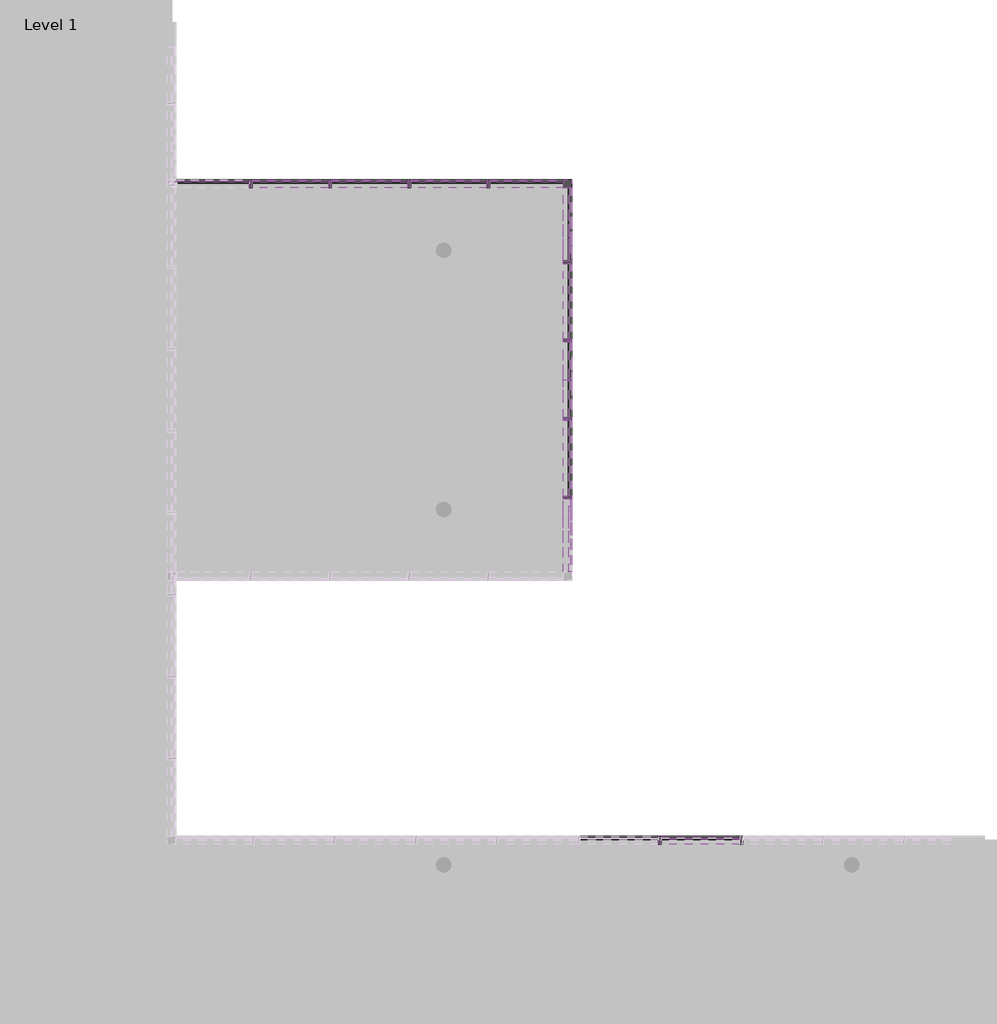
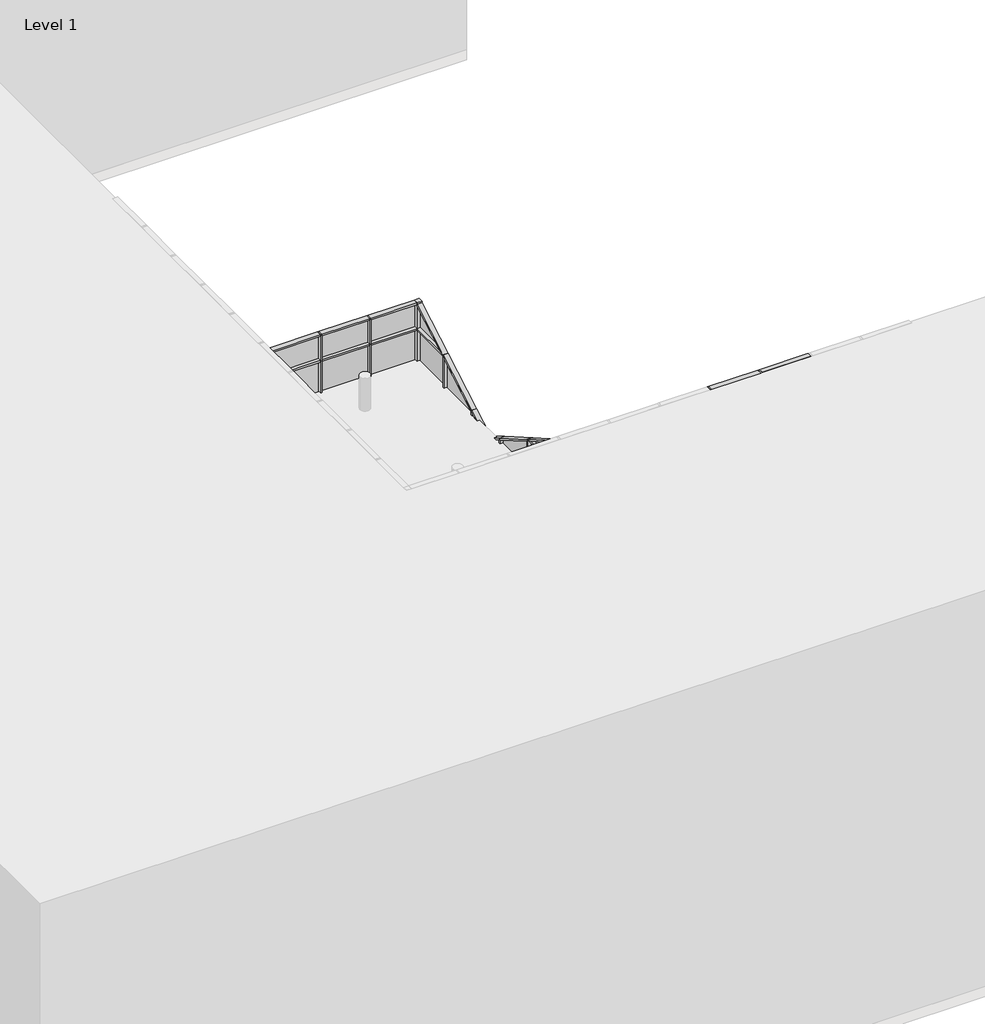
# One storey, part 4 of 18: 85 members, 32 plates.
"""IFC4 building model written with IfcOpenShell, lengths in millimetres."""

from ifc_helpers import new_model, si_unit, origin, place, context, project, spatial, transform, mapped, element, save
from components import quad_corner_mullion_quad_mullion_1_84add008, quad_corner_mullion_quad_mullion_1_81362c20, rectangular_mullion_50mm_x_150mm_5f185edf, rectangular_mullion_50mm_x_150mm_e13fe9f0, rectangular_mullion_50mm_x_150mm_4fd86324, rectangular_mullion_50mm_x_150mm_6edb5cd3, rectangular_mullion_50mm_x_150mm_015f125c, rectangular_mullion_50mm_x_150mm_d8cd8736, rectangular_mullion_50mm_x_150mm_3bb547da, rectangular_mullion_50mm_x_150mm_487a502d, rectangular_mullion_50mm_x_150mm_33c77db3, rectangular_mullion_50mm_x_150mm_4273df98, rectangular_mullion_50mm_x_150mm_62159ae8, rectangular_mullion_50mm_x_150mm_bbc1c4ea, rectangular_mullion_50mm_x_150mm_36202a7c, rectangular_mullion_50mm_x_150mm_84717ec5, rectangular_mullion_50mm_x_150mm_9fee62a8, rectangular_mullion_50mm_x_150mm_9a9261fc, rectangular_mullion_50mm_x_150mm_0d151f9d, rectangular_mullion_50mm_x_150mm_042a0947, rectangular_mullion_50mm_x_150mm_c95f637b, rectangular_mullion_50mm_x_150mm_0971b26f, rectangular_mullion_50mm_x_150mm_2daa7a2f, rectangular_mullion_50mm_x_150mm_79d6063e, rectangular_mullion_50mm_x_150mm_de2f9dda, rectangular_mullion_50mm_x_150mm_bd56b2c9, rectangular_mullion_50mm_x_150mm_0a493d35, rectangular_mullion_50mm_x_150mm_e9447dd4, rectangular_mullion_50mm_x_150mm_25900149, system_panel_glazed_77cafc2b, system_panel_glazed_ed797616, system_panel_glazed_95eec517, system_panel_glazed_cdc57668, system_panel_glazed_65478968, system_panel_glazed_4c130a31, system_panel_glazed_f33d80e9, system_panel_glazed_43ff80ab, system_panel_glazed_599459a6, system_panel_glazed_bda8db77, system_panel_glazed_93e8f09b, system_panel_glazed_ac2502f9, system_panel_glazed_372dedf1, system_panel_glazed_d933175f, system_panel_glazed_00c853e1, system_panel_glazed_c12f40d2, system_panel_glazed_af97afc8, system_panel_glazed_789d0833, system_panel_solid_368a6b70, system_panel_solid_ece33ae8

model = new_model("IFC4")

# Units and contexts
model_context = context("Model", 3, world=origin())
ifc_project = project(units=[si_unit("LENGTHUNIT", "METRE", prefix="MILLI")], contexts=[model_context])

# Site, building, storey
site = spatial("IfcSite", under=ifc_project)
building = spatial("IfcBuilding", under=site)
storey = spatial("IfcBuildingStorey", under=building, Name="Level 1", Elevation=0.0)

# Members
placement = place(None, origin())
quad_corner_mullion_quad_mullion_1_shape = quad_corner_mullion_quad_mullion_1_84add008(model_context)
element("IfcMember", 1, ObjectType="Quad Corner Mullion : Quad Mullion 1", at=placement, inside=storey, context=model_context, shape_type="MappedRepresentation", body=[
    mapped(quad_corner_mullion_quad_mullion_1_shape, transform((14709.0902051, -89.4607941, 0.0), x_axis=(0.0, 1.0, 0.0), y_axis=(1.0, 0.0, 0.0), z_axis=(0.0, 0.0, -1.0))),
])
element("IfcMember", 2, ObjectType="Quad Corner Mullion : Quad Mullion 1", at=placement, inside=storey, context=model_context, shape_type="MappedRepresentation", body=[
    mapped(quad_corner_mullion_quad_mullion_1_shape, transform((14709.0902051, -89.4607941, 3800.0), x_axis=(0.0, 1.0, 0.0), y_axis=(1.0, 0.0, 0.0), z_axis=(0.0, 0.0, -1.0))),
])
quad_corner_mullion_quad_mullion_1_2_shape = quad_corner_mullion_quad_mullion_1_81362c20(model_context)
element("IfcMember", 3, ObjectType="Quad Corner Mullion : Quad Mullion 1", at=placement, inside=storey, context=model_context, shape_type="MappedRepresentation", body=[
    mapped(quad_corner_mullion_quad_mullion_1_2_shape, transform((14709.0902051, -89.4607941, 7600.0), x_axis=(0.0, 1.0, 0.0), y_axis=(1.0, 0.0, 0.0), z_axis=(0.0, 0.0, -1.0))),
])
rectangular_mullion_50mm_x_150mm_shape = rectangular_mullion_50mm_x_150mm_5f185edf(model_context)
element("IfcMember", 4, ObjectType="Rectangular Mullion : 50mm x 150mm", at=placement, inside=storey, context=model_context, shape_type="MappedRepresentation", body=[
    mapped(rectangular_mullion_50mm_x_150mm_shape, transform((17919.8136138, -12132.3615692, 12400.0), x_axis=(0.0, 0.0, 1.0), y_axis=(0.0, 1.0, 0.0), z_axis=(-1.0, 0.0, 0.0))),
])
element("IfcMember", 5, ObjectType="Rectangular Mullion : 50mm x 150mm", at=placement, inside=storey, context=model_context, shape_type="MappedRepresentation", body=[
    mapped(rectangular_mullion_50mm_x_150mm_shape, transform((16427.3403936, -12132.3615692, 12400.0), x_axis=(0.0, 0.0, 1.0), y_axis=(0.0, 1.0, 0.0), z_axis=(-1.0, 0.0, 0.0))),
])
element("IfcMember", 6, ObjectType="Rectangular Mullion : 50mm x 150mm", at=placement, inside=storey, context=model_context, shape_type="MappedRepresentation", body=[
    mapped(rectangular_mullion_50mm_x_150mm_shape, transform((17869.8136138, -12132.3615692, 0.0), x_axis=(0.0, 0.0, -1.0), y_axis=(0.0, 1.0, 0.0), z_axis=(1.0, 0.0, 0.0))),
])
element("IfcMember", 7, ObjectType="Rectangular Mullion : 50mm x 150mm", at=placement, inside=storey, context=model_context, shape_type="MappedRepresentation", body=[
    mapped(rectangular_mullion_50mm_x_150mm_shape, transform((16377.3403936, -12132.3615692, 0.0), x_axis=(0.0, 0.0, -1.0), y_axis=(0.0, 1.0, 0.0), z_axis=(1.0, 0.0, 0.0))),
])
rectangular_mullion_50mm_x_150mm_2_shape = rectangular_mullion_50mm_x_150mm_e13fe9f0(model_context)
element("IfcMember", 8, ObjectType="Rectangular Mullion : 50mm x 150mm", at=placement, inside=storey, context=model_context, shape_type="MappedRepresentation", body=[
    mapped(rectangular_mullion_50mm_x_150mm_2_shape, transform((17919.8136138, -12132.3615692, 3800.0), x_axis=(0.0, 0.0, 1.0), y_axis=(0.0, 1.0, 0.0), z_axis=(-1.0, 0.0, 0.0))),
])
element("IfcMember", 9, ObjectType="Rectangular Mullion : 50mm x 150mm", at=placement, inside=storey, context=model_context, shape_type="MappedRepresentation", body=[
    mapped(rectangular_mullion_50mm_x_150mm_2_shape, transform((16427.3403936, -12132.3615692, 3800.0), x_axis=(0.0, 0.0, 1.0), y_axis=(0.0, 1.0, 0.0), z_axis=(-1.0, 0.0, 0.0))),
])
element("IfcMember", 10, ObjectType="Rectangular Mullion : 50mm x 150mm", at=placement, inside=storey, context=model_context, shape_type="MappedRepresentation", body=[
    mapped(rectangular_mullion_50mm_x_150mm_2_shape, transform((17919.8136138, -12132.3615692, 7600.0), x_axis=(0.0, 0.0, 1.0), y_axis=(0.0, 1.0, 0.0), z_axis=(-1.0, 0.0, 0.0))),
])
element("IfcMember", 11, ObjectType="Rectangular Mullion : 50mm x 150mm", at=placement, inside=storey, context=model_context, shape_type="MappedRepresentation", body=[
    mapped(rectangular_mullion_50mm_x_150mm_2_shape, transform((16427.3403936, -12132.3615692, 7600.0), x_axis=(0.0, 0.0, 1.0), y_axis=(0.0, 1.0, 0.0), z_axis=(-1.0, 0.0, 0.0))),
])
element("IfcMember", 12, ObjectType="Rectangular Mullion : 50mm x 150mm", at=placement, inside=storey, context=model_context, shape_type="MappedRepresentation", body=[
    mapped(rectangular_mullion_50mm_x_150mm_2_shape, transform((17919.8136138, -12132.3615692, 11400.0), x_axis=(0.0, 0.0, 1.0), y_axis=(0.0, 1.0, 0.0), z_axis=(-1.0, 0.0, 0.0))),
])
element("IfcMember", 13, ObjectType="Rectangular Mullion : 50mm x 150mm", at=placement, inside=storey, context=model_context, shape_type="MappedRepresentation", body=[
    mapped(rectangular_mullion_50mm_x_150mm_2_shape, transform((16427.3403936, -12132.3615692, 11400.0), x_axis=(0.0, 0.0, 1.0), y_axis=(0.0, 1.0, 0.0), z_axis=(-1.0, 0.0, 0.0))),
])
element("IfcMember", 14, ObjectType="Rectangular Mullion : 50mm x 150mm", at=placement, inside=storey, context=model_context, shape_type="MappedRepresentation", body=[
    mapped(rectangular_mullion_50mm_x_150mm_2_shape, transform((17919.8136138, -12132.3615692, 2440.0), x_axis=(0.0, 0.0, 1.0), y_axis=(0.0, 1.0, 0.0), z_axis=(-1.0, 0.0, 0.0))),
])
element("IfcMember", 15, ObjectType="Rectangular Mullion : 50mm x 150mm", at=placement, inside=storey, context=model_context, shape_type="MappedRepresentation", body=[
    mapped(rectangular_mullion_50mm_x_150mm_2_shape, transform((16427.3403936, -12132.3615692, 2440.0), x_axis=(0.0, 0.0, 1.0), y_axis=(0.0, 1.0, 0.0), z_axis=(-1.0, 0.0, 0.0))),
])
element("IfcMember", 16, ObjectType="Rectangular Mullion : 50mm x 150mm", at=placement, inside=storey, context=model_context, shape_type="MappedRepresentation", body=[
    mapped(rectangular_mullion_50mm_x_150mm_2_shape, transform((17919.8136138, -12132.3615692, 6240.0), x_axis=(0.0, 0.0, 1.0), y_axis=(0.0, 1.0, 0.0), z_axis=(-1.0, 0.0, 0.0))),
])
element("IfcMember", 17, ObjectType="Rectangular Mullion : 50mm x 150mm", at=placement, inside=storey, context=model_context, shape_type="MappedRepresentation", body=[
    mapped(rectangular_mullion_50mm_x_150mm_2_shape, transform((16427.3403936, -12132.3615692, 6240.0), x_axis=(0.0, 0.0, 1.0), y_axis=(0.0, 1.0, 0.0), z_axis=(-1.0, 0.0, 0.0))),
])
element("IfcMember", 18, ObjectType="Rectangular Mullion : 50mm x 150mm", at=placement, inside=storey, context=model_context, shape_type="MappedRepresentation", body=[
    mapped(rectangular_mullion_50mm_x_150mm_2_shape, transform((16427.3403936, -12132.3615692, 10040.0), x_axis=(0.0, 0.0, 1.0), y_axis=(0.0, 1.0, 0.0), z_axis=(-1.0, 0.0, 0.0))),
])
rectangular_mullion_50mm_x_150mm_3_shape = rectangular_mullion_50mm_x_150mm_4fd86324(model_context)
element("IfcMember", 19, ObjectType="Rectangular Mullion : 50mm x 150mm", at=placement, inside=storey, context=model_context, shape_type="MappedRepresentation", body=[
    mapped(rectangular_mullion_50mm_x_150mm_3_shape, transform((11829.4545519, -89.4607941, 8424.5150656), x_axis=(0.0, 0.0, 1.0), y_axis=(0.0, 1.0, 0.0), z_axis=(-1.0, 0.0, 0.0))),
])
element("IfcMember", 20, ObjectType="Rectangular Mullion : 50mm x 150mm", at=placement, inside=storey, context=model_context, shape_type="MappedRepresentation", body=[
    mapped(rectangular_mullion_50mm_x_150mm_3_shape, transform((10377.1367255, -89.4607941, 8424.5150656), x_axis=(0.0, 0.0, 1.0), y_axis=(0.0, 1.0, 0.0), z_axis=(-1.0, 0.0, 0.0))),
])
element("IfcMember", 21, ObjectType="Rectangular Mullion : 50mm x 150mm", at=placement, inside=storey, context=model_context, shape_type="MappedRepresentation", body=[
    mapped(rectangular_mullion_50mm_x_150mm_3_shape, transform((8924.8188991, -89.4607941, 8424.5150656), x_axis=(0.0, 0.0, 1.0), y_axis=(0.0, 1.0, 0.0), z_axis=(-1.0, 0.0, 0.0))),
])
element("IfcMember", 22, ObjectType="Rectangular Mullion : 50mm x 150mm", at=placement, inside=storey, context=model_context, shape_type="MappedRepresentation", body=[
    mapped(rectangular_mullion_50mm_x_150mm_3_shape, transform((13231.7723783, -89.4607941, 0.0), x_axis=(0.0, 0.0, -1.0), y_axis=(0.0, 1.0, 0.0), z_axis=(1.0, 0.0, 0.0))),
])
element("IfcMember", 23, ObjectType="Rectangular Mullion : 50mm x 150mm", at=placement, inside=storey, context=model_context, shape_type="MappedRepresentation", body=[
    mapped(rectangular_mullion_50mm_x_150mm_3_shape, transform((11779.4545519, -89.4607941, 0.0), x_axis=(0.0, 0.0, -1.0), y_axis=(0.0, 1.0, 0.0), z_axis=(1.0, 0.0, 0.0))),
])
element("IfcMember", 24, ObjectType="Rectangular Mullion : 50mm x 150mm", at=placement, inside=storey, context=model_context, shape_type="MappedRepresentation", body=[
    mapped(rectangular_mullion_50mm_x_150mm_3_shape, transform((10327.1367255, -89.4607941, 0.0), x_axis=(0.0, 0.0, -1.0), y_axis=(0.0, 1.0, 0.0), z_axis=(1.0, 0.0, 0.0))),
])
rectangular_mullion_50mm_x_150mm_4_shape = rectangular_mullion_50mm_x_150mm_6edb5cd3(model_context)
element("IfcMember", 25, ObjectType="Rectangular Mullion : 50mm x 150mm", at=placement, inside=storey, context=model_context, shape_type="MappedRepresentation", body=[
    mapped(rectangular_mullion_50mm_x_150mm_4_shape, transform((11829.4545519, -89.4607941, 3800.0), x_axis=(0.0, 0.0, 1.0), y_axis=(0.0, 1.0, 0.0), z_axis=(-1.0, 0.0, 0.0))),
])
element("IfcMember", 26, ObjectType="Rectangular Mullion : 50mm x 150mm", at=placement, inside=storey, context=model_context, shape_type="MappedRepresentation", body=[
    mapped(rectangular_mullion_50mm_x_150mm_4_shape, transform((10377.1367255, -89.4607941, 3800.0), x_axis=(0.0, 0.0, 1.0), y_axis=(0.0, 1.0, 0.0), z_axis=(-1.0, 0.0, 0.0))),
])
element("IfcMember", 27, ObjectType="Rectangular Mullion : 50mm x 150mm", at=placement, inside=storey, context=model_context, shape_type="MappedRepresentation", body=[
    mapped(rectangular_mullion_50mm_x_150mm_4_shape, transform((8924.8188991, -89.4607941, 3800.0), x_axis=(0.0, 0.0, 1.0), y_axis=(0.0, 1.0, 0.0), z_axis=(-1.0, 0.0, 0.0))),
])
element("IfcMember", 28, ObjectType="Rectangular Mullion : 50mm x 150mm", at=placement, inside=storey, context=model_context, shape_type="MappedRepresentation", body=[
    mapped(rectangular_mullion_50mm_x_150mm_4_shape, transform((11829.4545519, -89.4607941, 7600.0), x_axis=(0.0, 0.0, 1.0), y_axis=(0.0, 1.0, 0.0), z_axis=(-1.0, 0.0, 0.0))),
])
element("IfcMember", 29, ObjectType="Rectangular Mullion : 50mm x 150mm", at=placement, inside=storey, context=model_context, shape_type="MappedRepresentation", body=[
    mapped(rectangular_mullion_50mm_x_150mm_4_shape, transform((10377.1367255, -89.4607941, 7600.0), x_axis=(0.0, 0.0, 1.0), y_axis=(0.0, 1.0, 0.0), z_axis=(-1.0, 0.0, 0.0))),
])
element("IfcMember", 30, ObjectType="Rectangular Mullion : 50mm x 150mm", at=placement, inside=storey, context=model_context, shape_type="MappedRepresentation", body=[
    mapped(rectangular_mullion_50mm_x_150mm_4_shape, transform((8924.8188991, -89.4607941, 7600.0), x_axis=(0.0, 0.0, 1.0), y_axis=(0.0, 1.0, 0.0), z_axis=(-1.0, 0.0, 0.0))),
])
rectangular_mullion_50mm_x_150mm_5_shape = rectangular_mullion_50mm_x_150mm_015f125c(model_context)
element("IfcMember", 31, ObjectType="Rectangular Mullion : 50mm x 150mm", at=placement, inside=storey, context=model_context, shape_type="MappedRepresentation", body=[
    mapped(rectangular_mullion_50mm_x_150mm_5_shape, transform((14709.0902051, -5819.981104, 0.0), x_axis=(0.0, 0.0, -1.0), y_axis=(1.0, 0.0, 0.0), z_axis=(0.0, -1.0, 0.0))),
])
element("IfcMember", 32, ObjectType="Rectangular Mullion : 50mm x 150mm", at=placement, inside=storey, context=model_context, shape_type="MappedRepresentation", body=[
    mapped(rectangular_mullion_50mm_x_150mm_5_shape, transform((14709.0902051, -4381.1010266, 0.0), x_axis=(0.0, 0.0, -1.0), y_axis=(1.0, 0.0, 0.0), z_axis=(0.0, -1.0, 0.0))),
])
element("IfcMember", 33, ObjectType="Rectangular Mullion : 50mm x 150mm", at=placement, inside=storey, context=model_context, shape_type="MappedRepresentation", body=[
    mapped(rectangular_mullion_50mm_x_150mm_5_shape, transform((14709.0902051, -2942.2209492, 0.0), x_axis=(0.0, 0.0, -1.0), y_axis=(1.0, 0.0, 0.0), z_axis=(0.0, -1.0, 0.0))),
])
rectangular_mullion_50mm_x_150mm_6_shape = rectangular_mullion_50mm_x_150mm_d8cd8736(model_context)
element("IfcMember", 34, ObjectType="Rectangular Mullion : 50mm x 150mm", at=placement, inside=storey, context=model_context, shape_type="MappedRepresentation", body=[
    mapped(rectangular_mullion_50mm_x_150mm_6_shape, transform((14709.0902051, -4431.1010266, 3800.0), x_axis=(0.0, 0.0, 1.0), y_axis=(1.0, 0.0, 0.0), z_axis=(0.0, 1.0, 0.0))),
])
element("IfcMember", 35, ObjectType="Rectangular Mullion : 50mm x 150mm", at=placement, inside=storey, context=model_context, shape_type="MappedRepresentation", body=[
    mapped(rectangular_mullion_50mm_x_150mm_6_shape, transform((14709.0902051, -2992.2209492, 3800.0), x_axis=(0.0, 0.0, 1.0), y_axis=(1.0, 0.0, 0.0), z_axis=(0.0, 1.0, 0.0))),
])
element("IfcMember", 36, ObjectType="Rectangular Mullion : 50mm x 150mm", at=placement, inside=storey, context=model_context, shape_type="MappedRepresentation", body=[
    mapped(rectangular_mullion_50mm_x_150mm_6_shape, transform((14709.0902051, -1553.3408718, 3800.0), x_axis=(0.0, 0.0, 1.0), y_axis=(1.0, 0.0, 0.0), z_axis=(0.0, 1.0, 0.0))),
])
rectangular_mullion_50mm_x_150mm_7_shape = rectangular_mullion_50mm_x_150mm_3bb547da(model_context)
element("IfcMember", 37, ObjectType="Rectangular Mullion : 50mm x 150mm", at=placement, inside=storey, context=model_context, shape_type="MappedRepresentation", body=[
    mapped(rectangular_mullion_50mm_x_150mm_7_shape, transform((13281.7723783, -89.4607941, 8424.5150656), x_axis=(0.0, 0.0, 1.0), y_axis=(0.0, 1.0, 0.0), z_axis=(-1.0, 0.0, 0.0))),
])
element("IfcMember", 38, ObjectType="Rectangular Mullion : 50mm x 150mm", at=placement, inside=storey, context=model_context, shape_type="MappedRepresentation", body=[
    mapped(rectangular_mullion_50mm_x_150mm_7_shape, transform((14634.0902051, -89.4607941, 0.0), x_axis=(0.0, 0.0, -1.0), y_axis=(0.0, 1.0, 0.0), z_axis=(1.0, 0.0, 0.0))),
])
element("IfcMember", 39, ObjectType="Rectangular Mullion : 50mm x 150mm", at=placement, inside=storey, context=model_context, shape_type="MappedRepresentation", body=[
    mapped(rectangular_mullion_50mm_x_150mm_7_shape, transform((8874.8188991, -89.4607941, 0.0), x_axis=(0.0, 0.0, -1.0), y_axis=(0.0, 1.0, 0.0), z_axis=(1.0, 0.0, 0.0))),
])
rectangular_mullion_50mm_x_150mm_8_shape = rectangular_mullion_50mm_x_150mm_487a502d(model_context)
element("IfcMember", 40, ObjectType="Rectangular Mullion : 50mm x 150mm", at=placement, inside=storey, context=model_context, shape_type="MappedRepresentation", body=[
    mapped(rectangular_mullion_50mm_x_150mm_8_shape, transform((13281.7723783, -89.4607941, 3800.0), x_axis=(0.0, 0.0, 1.0), y_axis=(0.0, 1.0, 0.0), z_axis=(-1.0, 0.0, 0.0))),
])
element("IfcMember", 41, ObjectType="Rectangular Mullion : 50mm x 150mm", at=placement, inside=storey, context=model_context, shape_type="MappedRepresentation", body=[
    mapped(rectangular_mullion_50mm_x_150mm_8_shape, transform((13281.7723783, -89.4607941, 7600.0), x_axis=(0.0, 0.0, 1.0), y_axis=(0.0, 1.0, 0.0), z_axis=(-1.0, 0.0, 0.0))),
])
rectangular_mullion_50mm_x_150mm_9_shape = rectangular_mullion_50mm_x_150mm_33c77db3(model_context)
element("IfcMember", 42, ObjectType="Rectangular Mullion : 50mm x 150mm", at=placement, inside=storey, context=model_context, shape_type="MappedRepresentation", body=[
    mapped(rectangular_mullion_50mm_x_150mm_9_shape, transform((14709.0902051, -1503.3408718, 0.0), x_axis=(0.0, 0.0, -1.0), y_axis=(1.0, 0.0, 0.0), z_axis=(0.0, -1.0, 0.0))),
])
rectangular_mullion_50mm_x_150mm_10_shape = rectangular_mullion_50mm_x_150mm_4273df98(model_context)
element("IfcMember", 43, ObjectType="Rectangular Mullion : 50mm x 150mm", at=placement, inside=storey, context=model_context, shape_type="MappedRepresentation", body=[
    mapped(rectangular_mullion_50mm_x_150mm_10_shape, transform((14709.0902051, -5869.981104, 3800.0), x_axis=(0.0, 0.0, 1.0), y_axis=(1.0, 0.0, 0.0), z_axis=(0.0, 1.0, 0.0))),
])
element("IfcMember", 44, ObjectType="Rectangular Mullion : 50mm x 150mm", at=placement, inside=storey, context=model_context, shape_type="MappedRepresentation", body=[
    mapped(rectangular_mullion_50mm_x_150mm_10_shape, transform((14709.0902051, -164.4607941, 3800.0), x_axis=(0.0, 0.0, 1.0), y_axis=(1.0, 0.0, 0.0), z_axis=(0.0, 1.0, 0.0))),
])
rectangular_mullion_50mm_x_150mm_11_shape = rectangular_mullion_50mm_x_150mm_62159ae8(model_context)
element("IfcMember", 45, ObjectType="Rectangular Mullion : 50mm x 150mm", at=placement, inside=storey, context=model_context, shape_type="MappedRepresentation", body=[
    mapped(rectangular_mullion_50mm_x_150mm_11_shape, transform((13256.7723783, -89.4607941, 0.0), x_axis=(-1.0, 0.0, 0.0), y_axis=(0.0, 1.0, 0.0), z_axis=(0.0, 0.0, -1.0))),
])
element("IfcMember", 46, ObjectType="Rectangular Mullion : 50mm x 150mm", at=placement, inside=storey, context=model_context, shape_type="MappedRepresentation", body=[
    mapped(rectangular_mullion_50mm_x_150mm_11_shape, transform((11804.4545519, -89.4607941, 0.0), x_axis=(-1.0, 0.0, 0.0), y_axis=(0.0, 1.0, 0.0), z_axis=(0.0, 0.0, -1.0))),
])
element("IfcMember", 47, ObjectType="Rectangular Mullion : 50mm x 150mm", at=placement, inside=storey, context=model_context, shape_type="MappedRepresentation", body=[
    mapped(rectangular_mullion_50mm_x_150mm_11_shape, transform((10352.1367255, -89.4607941, 0.0), x_axis=(-1.0, 0.0, 0.0), y_axis=(0.0, 1.0, 0.0), z_axis=(0.0, 0.0, -1.0))),
])
element("IfcMember", 48, ObjectType="Rectangular Mullion : 50mm x 150mm", at=placement, inside=storey, context=model_context, shape_type="MappedRepresentation", body=[
    mapped(rectangular_mullion_50mm_x_150mm_11_shape, transform((8899.8188991, -89.4607941, 0.0), x_axis=(-1.0, 0.0, 0.0), y_axis=(0.0, 1.0, 0.0), z_axis=(0.0, 0.0, -1.0))),
])
element("IfcMember", 49, ObjectType="Rectangular Mullion : 50mm x 150mm", at=placement, inside=storey, context=model_context, shape_type="MappedRepresentation", body=[
    mapped(rectangular_mullion_50mm_x_150mm_11_shape, transform((14709.0902051, -5844.981104, 0.0), x_axis=(0.0, 1.0, 0.0), y_axis=(1.0, 0.0, 0.0), z_axis=(0.0, 0.0, -1.0))),
])
element("IfcMember", 50, ObjectType="Rectangular Mullion : 50mm x 150mm", at=placement, inside=storey, context=model_context, shape_type="MappedRepresentation", body=[
    mapped(rectangular_mullion_50mm_x_150mm_11_shape, transform((14709.0902051, -4406.1010266, 0.0), x_axis=(0.0, 1.0, 0.0), y_axis=(1.0, 0.0, 0.0), z_axis=(0.0, 0.0, -1.0))),
])
element("IfcMember", 51, ObjectType="Rectangular Mullion : 50mm x 150mm", at=placement, inside=storey, context=model_context, shape_type="MappedRepresentation", body=[
    mapped(rectangular_mullion_50mm_x_150mm_11_shape, transform((14709.0902051, -2967.2209492, 0.0), x_axis=(0.0, 1.0, 0.0), y_axis=(1.0, 0.0, 0.0), z_axis=(0.0, 0.0, -1.0))),
])
element("IfcMember", 52, ObjectType="Rectangular Mullion : 50mm x 150mm", at=placement, inside=storey, context=model_context, shape_type="MappedRepresentation", body=[
    mapped(rectangular_mullion_50mm_x_150mm_11_shape, transform((14709.0902051, -1528.3408718, 0.0), x_axis=(0.0, 1.0, 0.0), y_axis=(1.0, 0.0, 0.0), z_axis=(0.0, 0.0, -1.0))),
])
rectangular_mullion_50mm_x_150mm_12_shape = rectangular_mullion_50mm_x_150mm_bbc1c4ea(model_context)
element("IfcMember", 53, ObjectType="Rectangular Mullion : 50mm x 150mm", at=placement, inside=storey, context=model_context, shape_type="MappedRepresentation", body=[
    mapped(rectangular_mullion_50mm_x_150mm_12_shape, transform((17894.8136138, -12132.3615692, 11400.0), x_axis=(-1.0, 0.0, 0.0), y_axis=(0.0, 1.0, 0.0), z_axis=(0.0, 0.0, -1.0))),
])
element("IfcMember", 54, ObjectType="Rectangular Mullion : 50mm x 150mm", at=placement, inside=storey, context=model_context, shape_type="MappedRepresentation", body=[
    mapped(rectangular_mullion_50mm_x_150mm_12_shape, transform((16402.3403936, -12132.3615692, 11400.0), x_axis=(-1.0, 0.0, 0.0), y_axis=(0.0, 1.0, 0.0), z_axis=(0.0, 0.0, -1.0))),
])
rectangular_mullion_50mm_x_150mm_13_shape = rectangular_mullion_50mm_x_150mm_36202a7c(model_context)
element("IfcMember", 55, ObjectType="Rectangular Mullion : 50mm x 150mm", at=placement, inside=storey, context=model_context, shape_type="MappedRepresentation", body=[
    mapped(rectangular_mullion_50mm_x_150mm_13_shape, transform((17894.8136138, -12132.3615692, 0.0), x_axis=(-1.0, 0.0, 0.0), y_axis=(0.0, 1.0, 0.0), z_axis=(0.0, 0.0, -1.0))),
])
element("IfcMember", 56, ObjectType="Rectangular Mullion : 50mm x 150mm", at=placement, inside=storey, context=model_context, shape_type="MappedRepresentation", body=[
    mapped(rectangular_mullion_50mm_x_150mm_13_shape, transform((16402.3403936, -12132.3615692, 0.0), x_axis=(-1.0, 0.0, 0.0), y_axis=(0.0, 1.0, 0.0), z_axis=(0.0, 0.0, -1.0))),
])
rectangular_mullion_50mm_x_150mm_14_shape = rectangular_mullion_50mm_x_150mm_84717ec5(model_context)
element("IfcMember", 57, ObjectType="Rectangular Mullion : 50mm x 150mm", at=placement, inside=storey, context=model_context, shape_type="MappedRepresentation", body=[
    mapped(rectangular_mullion_50mm_x_150mm_14_shape, transform((17894.8136138, -12132.3615692, 2440.0), x_axis=(-1.0, 0.0, 0.0), y_axis=(0.0, 1.0, 0.0), z_axis=(0.0, 0.0, -1.0))),
])
element("IfcMember", 58, ObjectType="Rectangular Mullion : 50mm x 150mm", at=placement, inside=storey, context=model_context, shape_type="MappedRepresentation", body=[
    mapped(rectangular_mullion_50mm_x_150mm_14_shape, transform((16402.3403936, -12132.3615692, 2440.0), x_axis=(-1.0, 0.0, 0.0), y_axis=(0.0, 1.0, 0.0), z_axis=(0.0, 0.0, -1.0))),
])
element("IfcMember", 59, ObjectType="Rectangular Mullion : 50mm x 150mm", at=placement, inside=storey, context=model_context, shape_type="MappedRepresentation", body=[
    mapped(rectangular_mullion_50mm_x_150mm_14_shape, transform((17894.8136138, -12132.3615692, 6240.0), x_axis=(-1.0, 0.0, 0.0), y_axis=(0.0, 1.0, 0.0), z_axis=(0.0, 0.0, -1.0))),
])
element("IfcMember", 60, ObjectType="Rectangular Mullion : 50mm x 150mm", at=placement, inside=storey, context=model_context, shape_type="MappedRepresentation", body=[
    mapped(rectangular_mullion_50mm_x_150mm_14_shape, transform((16402.3403936, -12132.3615692, 6240.0), x_axis=(-1.0, 0.0, 0.0), y_axis=(0.0, 1.0, 0.0), z_axis=(0.0, 0.0, -1.0))),
])
element("IfcMember", 61, ObjectType="Rectangular Mullion : 50mm x 150mm", at=placement, inside=storey, context=model_context, shape_type="MappedRepresentation", body=[
    mapped(rectangular_mullion_50mm_x_150mm_14_shape, transform((16402.3403936, -12132.3615692, 10040.0), x_axis=(-1.0, 0.0, 0.0), y_axis=(0.0, 1.0, 0.0), z_axis=(0.0, 0.0, -1.0))),
])
element("IfcMember", 62, ObjectType="Rectangular Mullion : 50mm x 150mm", at=placement, inside=storey, context=model_context, shape_type="MappedRepresentation", body=[
    mapped(rectangular_mullion_50mm_x_150mm_13_shape, transform((17894.8136138, -12132.3615692, 3800.0), x_axis=(-1.0, 0.0, 0.0), y_axis=(0.0, 1.0, 0.0), z_axis=(0.0, 0.0, -1.0))),
])
element("IfcMember", 63, ObjectType="Rectangular Mullion : 50mm x 150mm", at=placement, inside=storey, context=model_context, shape_type="MappedRepresentation", body=[
    mapped(rectangular_mullion_50mm_x_150mm_13_shape, transform((16402.3403936, -12132.3615692, 3800.0), x_axis=(-1.0, 0.0, 0.0), y_axis=(0.0, 1.0, 0.0), z_axis=(0.0, 0.0, -1.0))),
])
element("IfcMember", 64, ObjectType="Rectangular Mullion : 50mm x 150mm", at=placement, inside=storey, context=model_context, shape_type="MappedRepresentation", body=[
    mapped(rectangular_mullion_50mm_x_150mm_13_shape, transform((17894.8136138, -12132.3615692, 7600.0), x_axis=(-1.0, 0.0, 0.0), y_axis=(0.0, 1.0, 0.0), z_axis=(0.0, 0.0, -1.0))),
])
element("IfcMember", 65, ObjectType="Rectangular Mullion : 50mm x 150mm", at=placement, inside=storey, context=model_context, shape_type="MappedRepresentation", body=[
    mapped(rectangular_mullion_50mm_x_150mm_13_shape, transform((16402.3403936, -12132.3615692, 7600.0), x_axis=(-1.0, 0.0, 0.0), y_axis=(0.0, 1.0, 0.0), z_axis=(0.0, 0.0, -1.0))),
])
rectangular_mullion_50mm_x_150mm_15_shape = rectangular_mullion_50mm_x_150mm_9fee62a8(model_context)
element("IfcMember", 66, ObjectType="Rectangular Mullion : 50mm x 150mm", at=placement, inside=storey, context=model_context, shape_type="MappedRepresentation", body=[
    mapped(rectangular_mullion_50mm_x_150mm_15_shape, transform((14709.0902051, -4406.1010266, 3800.0), x_axis=(0.0, 1.0, 0.0), y_axis=(1.0, 0.0, 0.0), z_axis=(0.0, 0.0, -1.0))),
])
rectangular_mullion_50mm_x_150mm_16_shape = rectangular_mullion_50mm_x_150mm_9a9261fc(model_context)
element("IfcMember", 67, ObjectType="Rectangular Mullion : 50mm x 150mm", at=placement, inside=storey, context=model_context, shape_type="MappedRepresentation", body=[
    mapped(rectangular_mullion_50mm_x_150mm_16_shape, transform((14709.0902051, -2967.2209492, 3800.0), x_axis=(0.0, 1.0, 0.0), y_axis=(1.0, 0.0, 0.0), z_axis=(0.0, 0.0, -1.0))),
])
rectangular_mullion_50mm_x_150mm_17_shape = rectangular_mullion_50mm_x_150mm_0d151f9d(model_context)
element("IfcMember", 68, ObjectType="Rectangular Mullion : 50mm x 150mm", at=placement, inside=storey, context=model_context, shape_type="MappedRepresentation", body=[
    mapped(rectangular_mullion_50mm_x_150mm_17_shape, transform((14709.0902051, -1528.3408718, 3800.0), x_axis=(0.0, 1.0, 0.0), y_axis=(1.0, 0.0, 0.0), z_axis=(0.0, 0.0, -1.0))),
])
rectangular_mullion_50mm_x_150mm_18_shape = rectangular_mullion_50mm_x_150mm_042a0947(model_context)
element("IfcMember", 69, ObjectType="Rectangular Mullion : 50mm x 150mm", at=placement, inside=storey, context=model_context, shape_type="MappedRepresentation", body=[
    mapped(rectangular_mullion_50mm_x_150mm_18_shape, transform((14709.0902051, -3686.6609879, 6347.6705654), x_axis=(0.0, 0.5000000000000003, 0.8660254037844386), y_axis=(1.0, 0.0, 0.0), z_axis=(0.0, 0.8660254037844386, -0.5000000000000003))),
])
rectangular_mullion_50mm_x_150mm_19_shape = rectangular_mullion_50mm_x_150mm_c95f637b(model_context)
element("IfcMember", 70, ObjectType="Rectangular Mullion : 50mm x 150mm", at=placement, inside=storey, context=model_context, shape_type="MappedRepresentation", body=[
    mapped(rectangular_mullion_50mm_x_150mm_19_shape, transform((14709.0902051, -2967.2209492, 6763.0394654), x_axis=(0.0, -0.5000000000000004, 0.8660254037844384), y_axis=(1.0, 0.0, 0.0), z_axis=(0.0, 0.8660254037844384, 0.5000000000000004))),
])
rectangular_mullion_50mm_x_150mm_20_shape = rectangular_mullion_50mm_x_150mm_0971b26f(model_context)
element("IfcMember", 71, ObjectType="Rectangular Mullion : 50mm x 150mm", at=placement, inside=storey, context=model_context, shape_type="MappedRepresentation", body=[
    mapped(rectangular_mullion_50mm_x_150mm_20_shape, transform((14709.0902051, -1528.3408718, 7593.7772654), x_axis=(0.0, -0.49999999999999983, 0.8660254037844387), y_axis=(1.0, 0.0, 0.0), z_axis=(0.0, 0.8660254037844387, 0.49999999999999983))),
])
element("IfcMember", 72, ObjectType="Rectangular Mullion : 50mm x 150mm", at=placement, inside=storey, context=model_context, shape_type="MappedRepresentation", body=[
    mapped(rectangular_mullion_50mm_x_150mm_11_shape, transform((13256.7723783, -89.4607941, 3800.0), x_axis=(-1.0, 0.0, 0.0), y_axis=(0.0, 1.0, 0.0), z_axis=(0.0, 0.0, -1.0))),
])
element("IfcMember", 73, ObjectType="Rectangular Mullion : 50mm x 150mm", at=placement, inside=storey, context=model_context, shape_type="MappedRepresentation", body=[
    mapped(rectangular_mullion_50mm_x_150mm_11_shape, transform((11804.4545519, -89.4607941, 3800.0), x_axis=(-1.0, 0.0, 0.0), y_axis=(0.0, 1.0, 0.0), z_axis=(0.0, 0.0, -1.0))),
])
element("IfcMember", 74, ObjectType="Rectangular Mullion : 50mm x 150mm", at=placement, inside=storey, context=model_context, shape_type="MappedRepresentation", body=[
    mapped(rectangular_mullion_50mm_x_150mm_11_shape, transform((10352.1367255, -89.4607941, 3800.0), x_axis=(-1.0, 0.0, 0.0), y_axis=(0.0, 1.0, 0.0), z_axis=(0.0, 0.0, -1.0))),
])
element("IfcMember", 75, ObjectType="Rectangular Mullion : 50mm x 150mm", at=placement, inside=storey, context=model_context, shape_type="MappedRepresentation", body=[
    mapped(rectangular_mullion_50mm_x_150mm_11_shape, transform((8899.8188991, -89.4607941, 3800.0), x_axis=(-1.0, 0.0, 0.0), y_axis=(0.0, 1.0, 0.0), z_axis=(0.0, 0.0, -1.0))),
])
rectangular_mullion_50mm_x_150mm_21_shape = rectangular_mullion_50mm_x_150mm_2daa7a2f(model_context)
element("IfcMember", 76, ObjectType="Rectangular Mullion : 50mm x 150mm", at=placement, inside=storey, context=model_context, shape_type="MappedRepresentation", body=[
    mapped(rectangular_mullion_50mm_x_150mm_21_shape, transform((13256.7723783, -89.4607941, 7600.0), x_axis=(-1.0, 0.0, 0.0), y_axis=(0.0, 1.0, 0.0), z_axis=(0.0, 0.0, -1.0))),
])
element("IfcMember", 77, ObjectType="Rectangular Mullion : 50mm x 150mm", at=placement, inside=storey, context=model_context, shape_type="MappedRepresentation", body=[
    mapped(rectangular_mullion_50mm_x_150mm_21_shape, transform((11804.4545519, -89.4607941, 7600.0), x_axis=(-1.0, 0.0, 0.0), y_axis=(0.0, 1.0, 0.0), z_axis=(0.0, 0.0, -1.0))),
])
element("IfcMember", 78, ObjectType="Rectangular Mullion : 50mm x 150mm", at=placement, inside=storey, context=model_context, shape_type="MappedRepresentation", body=[
    mapped(rectangular_mullion_50mm_x_150mm_21_shape, transform((10352.1367255, -89.4607941, 7600.0), x_axis=(-1.0, 0.0, 0.0), y_axis=(0.0, 1.0, 0.0), z_axis=(0.0, 0.0, -1.0))),
])
element("IfcMember", 79, ObjectType="Rectangular Mullion : 50mm x 150mm", at=placement, inside=storey, context=model_context, shape_type="MappedRepresentation", body=[
    mapped(rectangular_mullion_50mm_x_150mm_21_shape, transform((8899.8188991, -89.4607941, 7600.0), x_axis=(-1.0, 0.0, 0.0), y_axis=(0.0, 1.0, 0.0), z_axis=(0.0, 0.0, -1.0))),
])
rectangular_mullion_50mm_x_150mm_22_shape = rectangular_mullion_50mm_x_150mm_79d6063e(model_context)
element("IfcMember", 80, ObjectType="Rectangular Mullion : 50mm x 150mm", at=placement, inside=storey, context=model_context, shape_type="MappedRepresentation", body=[
    mapped(rectangular_mullion_50mm_x_150mm_22_shape, transform((14709.0902051, -5844.981104, 3800.0), x_axis=(0.0, 1.0, 0.0), y_axis=(1.0, 0.0, 0.0), z_axis=(0.0, 0.0, -1.0))),
])
rectangular_mullion_50mm_x_150mm_23_shape = rectangular_mullion_50mm_x_150mm_de2f9dda(model_context)
element("IfcMember", 81, ObjectType="Rectangular Mullion : 50mm x 150mm", at=placement, inside=storey, context=model_context, shape_type="MappedRepresentation", body=[
    mapped(rectangular_mullion_50mm_x_150mm_23_shape, transform((14709.0902051, -89.4607941, 8424.5150656), x_axis=(0.0, -0.4999999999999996, 0.8660254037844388), y_axis=(1.0, 0.0, 0.0), z_axis=(0.0, 0.8660254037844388, 0.4999999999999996))),
])
rectangular_mullion_50mm_x_150mm_24_shape = rectangular_mullion_50mm_x_150mm_bd56b2c9(model_context)
element("IfcMember", 82, ObjectType="Rectangular Mullion : 50mm x 150mm", at=placement, inside=storey, context=model_context, shape_type="MappedRepresentation", body=[
    mapped(rectangular_mullion_50mm_x_150mm_24_shape, transform((14709.0902051, -4406.1010266, 6763.0394654), x_axis=(0.0, 0.5000000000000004, 0.8660254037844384), y_axis=(1.0, 0.0, 0.0), z_axis=(0.0, 0.8660254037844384, -0.5000000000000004))),
])
rectangular_mullion_50mm_x_150mm_25_shape = rectangular_mullion_50mm_x_150mm_0a493d35(model_context)
element("IfcMember", 83, ObjectType="Rectangular Mullion : 50mm x 150mm", at=placement, inside=storey, context=model_context, shape_type="MappedRepresentation", body=[
    mapped(rectangular_mullion_50mm_x_150mm_25_shape, transform((14709.0902051, -164.4607941, 7600.0), x_axis=(0.0, 0.0, 1.0), y_axis=(1.0, 0.0, 0.0), z_axis=(0.0, 1.0, 0.0))),
])
rectangular_mullion_50mm_x_150mm_26_shape = rectangular_mullion_50mm_x_150mm_e9447dd4(model_context)
element("IfcMember", 84, ObjectType="Rectangular Mullion : 50mm x 150mm", at=placement, inside=storey, context=model_context, shape_type="MappedRepresentation", body=[
    mapped(rectangular_mullion_50mm_x_150mm_26_shape, transform((14709.0902051, -5855.7591964, 7600.0), x_axis=(0.0, 0.5000000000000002, 0.8660254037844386), y_axis=(1.0, 0.0, 0.0), z_axis=(0.0, 0.8660254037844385, -0.5000000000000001))),
])
rectangular_mullion_50mm_x_150mm_27_shape = rectangular_mullion_50mm_x_150mm_25900149(model_context)
element("IfcMember", 85, ObjectType="Rectangular Mullion : 50mm x 150mm", at=placement, inside=storey, context=model_context, shape_type="MappedRepresentation", body=[
    mapped(rectangular_mullion_50mm_x_150mm_27_shape, transform((14709.0902051, -5855.7591964, 7600.0), x_axis=(0.0, 0.0, 1.0), y_axis=(1.0, 0.0, 0.0), z_axis=(0.0, 1.0, 0.0))),
])

# Plates
system_panel_glazed_shape = system_panel_glazed_77cafc2b(model_context)
element("IfcPlate", 86, ObjectType="System Panel : Glazed", at=placement, inside=storey, context=model_context, shape_type="MappedRepresentation", body=[
    mapped(system_panel_glazed_shape, transform((13957.9312917, -89.4607941, 50.0), x_axis=(-1.0, 0.0, 0.0), y_axis=(0.0, -1.0, 0.0), z_axis=(0.0, 0.0, 1.0))),
])
element("IfcPlate", 87, ObjectType="System Panel : Glazed", at=placement, inside=storey, context=model_context, shape_type="MappedRepresentation", body=[
    mapped(system_panel_glazed_shape, transform((8198.6599857, -89.4607941, 50.0), x_axis=(-1.0, 0.0, 0.0), y_axis=(0.0, -1.0, 0.0), z_axis=(0.0, 0.0, 1.0))),
])
system_panel_glazed_2_shape = system_panel_glazed_ed797616(model_context)
element("IfcPlate", 88, ObjectType="System Panel : Glazed", at=placement, inside=storey, context=model_context, shape_type="MappedRepresentation", body=[
    mapped(system_panel_glazed_2_shape, transform((14709.0902051, -833.900833, 50.0), x_axis=(0.0, 1.0, 0.0), y_axis=(-1.0, 0.0, 0.0), z_axis=(0.0, 0.0, 1.0))),
])
system_panel_glazed_3_shape = system_panel_glazed_95eec517(model_context)
element("IfcPlate", 89, ObjectType="System Panel : Glazed", at=placement, inside=storey, context=model_context, shape_type="MappedRepresentation", body=[
    mapped(system_panel_glazed_3_shape, transform((12530.6134651, -89.4607941, 50.0), x_axis=(-1.0, 0.0, 0.0), y_axis=(0.0, -1.0, 0.0), z_axis=(0.0, 0.0, 1.0))),
])
element("IfcPlate", 90, ObjectType="System Panel : Glazed", at=placement, inside=storey, context=model_context, shape_type="MappedRepresentation", body=[
    mapped(system_panel_glazed_3_shape, transform((11078.2956387, -89.4607941, 50.0), x_axis=(-1.0, 0.0, 0.0), y_axis=(0.0, -1.0, 0.0), z_axis=(0.0, 0.0, 1.0))),
])
element("IfcPlate", 91, ObjectType="System Panel : Glazed", at=placement, inside=storey, context=model_context, shape_type="MappedRepresentation", body=[
    mapped(system_panel_glazed_3_shape, transform((9625.9778123, -89.4607941, 50.0), x_axis=(-1.0, 0.0, 0.0), y_axis=(0.0, -1.0, 0.0), z_axis=(0.0, 0.0, 1.0))),
])
system_panel_glazed_4_shape = system_panel_glazed_cdc57668(model_context)
element("IfcPlate", 92, ObjectType="System Panel : Glazed", at=placement, inside=storey, context=model_context, shape_type="MappedRepresentation", body=[
    mapped(system_panel_glazed_4_shape, transform((14709.0902051, -5125.5410653, 50.0), x_axis=(0.0, 1.0, 0.0), y_axis=(-1.0, 0.0, 0.0), z_axis=(0.0, 0.0, 1.0))),
])
element("IfcPlate", 93, ObjectType="System Panel : Glazed", at=placement, inside=storey, context=model_context, shape_type="MappedRepresentation", body=[
    mapped(system_panel_glazed_4_shape, transform((14709.0902051, -3686.6609879, 50.0), x_axis=(0.0, 1.0, 0.0), y_axis=(-1.0, 0.0, 0.0), z_axis=(0.0, 0.0, 1.0))),
])
element("IfcPlate", 94, ObjectType="System Panel : Glazed", at=placement, inside=storey, context=model_context, shape_type="MappedRepresentation", body=[
    mapped(system_panel_glazed_4_shape, transform((14709.0902051, -2247.7809105, 50.0), x_axis=(0.0, 1.0, 0.0), y_axis=(-1.0, 0.0, 0.0), z_axis=(0.0, 0.0, 1.0))),
])
system_panel_glazed_5_shape = system_panel_glazed_65478968(model_context)
element("IfcPlate", 95, ObjectType="System Panel : Glazed", at=placement, inside=storey, context=model_context, shape_type="MappedRepresentation", body=[
    mapped(system_panel_glazed_5_shape, transform((17148.5770037, -12132.3615692, 50.0), x_axis=(-1.0, 0.0, 0.0), y_axis=(0.0, -1.0, 0.0), z_axis=(0.0, 0.0, 1.0))),
])
system_panel_glazed_6_shape = system_panel_glazed_4c130a31(model_context)
element("IfcPlate", 96, ObjectType="System Panel : Glazed", at=placement, inside=storey, context=model_context, shape_type="MappedRepresentation", body=[
    mapped(system_panel_glazed_6_shape, transform((17148.5770037, -12132.3615692, 3825.0), x_axis=(-1.0, 0.0, 0.0), y_axis=(0.0, -1.0, 0.0), z_axis=(0.0, 0.0, 1.0))),
])
element("IfcPlate", 97, ObjectType="System Panel : Glazed", at=placement, inside=storey, context=model_context, shape_type="MappedRepresentation", body=[
    mapped(system_panel_glazed_6_shape, transform((17148.5770037, -12132.3615692, 7625.0), x_axis=(-1.0, 0.0, 0.0), y_axis=(0.0, -1.0, 0.0), z_axis=(0.0, 0.0, 1.0))),
])
system_panel_glazed_7_shape = system_panel_glazed_f33d80e9(model_context)
element("IfcPlate", 98, ObjectType="System Panel : Glazed", at=placement, inside=storey, context=model_context, shape_type="MappedRepresentation", body=[
    mapped(system_panel_glazed_7_shape, transform((14709.0902051, -5125.5410653, 3825.0), x_axis=(0.0, 1.0, 0.0), y_axis=(-1.0, 0.0, 0.0), z_axis=(0.0, 0.0, 1.0))),
])
system_panel_glazed_8_shape = system_panel_glazed_43ff80ab(model_context)
element("IfcPlate", 99, ObjectType="System Panel : Glazed", at=placement, inside=storey, context=model_context, shape_type="MappedRepresentation", body=[
    mapped(system_panel_glazed_8_shape, transform((14709.0902051, -3686.6609879, 3825.0), x_axis=(0.0, 1.0, 0.0), y_axis=(-1.0, 0.0, 0.0), z_axis=(0.0, 0.0, 1.0))),
])
system_panel_glazed_9_shape = system_panel_glazed_599459a6(model_context)
element("IfcPlate", 100, ObjectType="System Panel : Glazed", at=placement, inside=storey, context=model_context, shape_type="MappedRepresentation", body=[
    mapped(system_panel_glazed_9_shape, transform((14709.0902051, -2247.7809105, 3825.0), x_axis=(0.0, 1.0, 0.0), y_axis=(-1.0, 0.0, 0.0), z_axis=(0.0, 0.0, 1.0))),
])
system_panel_glazed_10_shape = system_panel_glazed_bda8db77(model_context)
element("IfcPlate", 101, ObjectType="System Panel : Glazed", at=placement, inside=storey, context=model_context, shape_type="MappedRepresentation", body=[
    mapped(system_panel_glazed_10_shape, transform((12530.6134651, -89.4607941, 3825.0), x_axis=(-1.0, 0.0, 0.0), y_axis=(0.0, -1.0, 0.0), z_axis=(0.0, 0.0, 1.0))),
])
element("IfcPlate", 102, ObjectType="System Panel : Glazed", at=placement, inside=storey, context=model_context, shape_type="MappedRepresentation", body=[
    mapped(system_panel_glazed_10_shape, transform((11078.2956387, -89.4607941, 3825.0), x_axis=(-1.0, 0.0, 0.0), y_axis=(0.0, -1.0, 0.0), z_axis=(0.0, 0.0, 1.0))),
])
element("IfcPlate", 103, ObjectType="System Panel : Glazed", at=placement, inside=storey, context=model_context, shape_type="MappedRepresentation", body=[
    mapped(system_panel_glazed_10_shape, transform((9625.9778123, -89.4607941, 3825.0), x_axis=(-1.0, 0.0, 0.0), y_axis=(0.0, -1.0, 0.0), z_axis=(0.0, 0.0, 1.0))),
])
system_panel_glazed_11_shape = system_panel_glazed_93e8f09b(model_context)
element("IfcPlate", 104, ObjectType="System Panel : Glazed", at=placement, inside=storey, context=model_context, shape_type="MappedRepresentation", body=[
    mapped(system_panel_glazed_11_shape, transform((8198.6599857, -89.4607941, 3825.0), x_axis=(-1.0, 0.0, 0.0), y_axis=(0.0, -1.0, 0.0), z_axis=(0.0, 0.0, 1.0))),
])
system_panel_glazed_12_shape = system_panel_glazed_ac2502f9(model_context)
element("IfcPlate", 105, ObjectType="System Panel : Glazed", at=placement, inside=storey, context=model_context, shape_type="MappedRepresentation", body=[
    mapped(system_panel_glazed_12_shape, transform((14709.0902051, -6539.4211428, 3825.0), x_axis=(0.0, 1.0, 0.0), y_axis=(-1.0, 0.0, 0.0), z_axis=(0.0, 0.0, 1.0))),
])
element("IfcPlate", 106, ObjectType="System Panel : Glazed", at=placement, inside=storey, context=model_context, shape_type="MappedRepresentation", body=[
    mapped(system_panel_glazed_12_shape, transform((14709.0902051, -833.900833, 3825.0), x_axis=(0.0, 1.0, 0.0), y_axis=(-1.0, 0.0, 0.0), z_axis=(0.0, 0.0, 1.0))),
])
system_panel_glazed_13_shape = system_panel_glazed_372dedf1(model_context)
element("IfcPlate", 107, ObjectType="System Panel : Glazed", at=placement, inside=storey, context=model_context, shape_type="MappedRepresentation", body=[
    mapped(system_panel_glazed_13_shape, transform((13957.9312917, -89.4607941, 3825.0), x_axis=(-1.0, 0.0, 0.0), y_axis=(0.0, -1.0, 0.0), z_axis=(0.0, 0.0, 1.0))),
])
system_panel_glazed_14_shape = system_panel_glazed_d933175f(model_context)
element("IfcPlate", 108, ObjectType="System Panel : Glazed", at=placement, inside=storey, context=model_context, shape_type="MappedRepresentation", body=[
    mapped(system_panel_glazed_14_shape, transform((12530.6134651, -89.4607941, 7625.0), x_axis=(-1.0, 0.0, 0.0), y_axis=(0.0, -1.0, 0.0), z_axis=(0.0, 0.0, 1.0))),
])
element("IfcPlate", 109, ObjectType="System Panel : Glazed", at=placement, inside=storey, context=model_context, shape_type="MappedRepresentation", body=[
    mapped(system_panel_glazed_14_shape, transform((11078.2956387, -89.4607941, 7625.0), x_axis=(-1.0, 0.0, 0.0), y_axis=(0.0, -1.0, 0.0), z_axis=(0.0, 0.0, 1.0))),
])
element("IfcPlate", 110, ObjectType="System Panel : Glazed", at=placement, inside=storey, context=model_context, shape_type="MappedRepresentation", body=[
    mapped(system_panel_glazed_14_shape, transform((9625.9778123, -89.4607941, 7625.0), x_axis=(-1.0, 0.0, 0.0), y_axis=(0.0, -1.0, 0.0), z_axis=(0.0, 0.0, 1.0))),
])
system_panel_glazed_15_shape = system_panel_glazed_00c853e1(model_context)
element("IfcPlate", 111, ObjectType="System Panel : Glazed", at=placement, inside=storey, context=model_context, shape_type="MappedRepresentation", body=[
    mapped(system_panel_glazed_15_shape, transform((8209.9884588, -89.4607941, 7625.0), x_axis=(-1.0, 0.0, 0.0), y_axis=(0.0, -1.0, 0.0), z_axis=(0.0, 0.0, 1.0))),
])
system_panel_glazed_16_shape = system_panel_glazed_c12f40d2(model_context)
element("IfcPlate", 112, ObjectType="System Panel : Glazed", at=placement, inside=storey, context=model_context, shape_type="MappedRepresentation", body=[
    mapped(system_panel_glazed_16_shape, transform((14709.0902051, -769.3611516, 7625.0), x_axis=(0.0, 1.0, 0.0), y_axis=(-1.0, 0.0, 0.0), z_axis=(0.0, 0.0, 1.0))),
])
system_panel_glazed_17_shape = system_panel_glazed_af97afc8(model_context)
element("IfcPlate", 113, ObjectType="System Panel : Glazed", at=placement, inside=storey, context=model_context, shape_type="MappedRepresentation", body=[
    mapped(system_panel_glazed_17_shape, transform((13957.9312917, -89.4607941, 7625.0), x_axis=(-1.0, 0.0, 0.0), y_axis=(0.0, -1.0, 0.0), z_axis=(0.0, 0.0, 1.0))),
])
system_panel_glazed_18_shape = system_panel_glazed_789d0833(model_context)
element("IfcPlate", 114, ObjectType="System Panel : Glazed", at=placement, inside=storey, context=model_context, shape_type="MappedRepresentation", body=[
    mapped(system_panel_glazed_18_shape, transform((14709.0902051, -6603.9608242, 7625.0), x_axis=(0.0, 1.0, 0.0), y_axis=(-1.0, 0.0, 0.0), z_axis=(0.0, 0.0, 1.0))),
])
system_panel_solid_shape = system_panel_solid_368a6b70(model_context)
element("IfcPlate", 115, ObjectType="System Panel : Solid", at=placement, inside=storey, context=model_context, shape_type="MappedRepresentation", body=[
    mapped(system_panel_solid_shape, transform((17148.5770037, -12132.3615692, 11425.0), x_axis=(-1.0, 0.0, 0.0), y_axis=(0.0, -1.0, 0.0), z_axis=(0.0, 0.0, 1.0))),
])
system_panel_solid_2_shape = system_panel_solid_ece33ae8(model_context)
element("IfcPlate", 116, ObjectType="System Panel : Solid", at=placement, inside=storey, context=model_context, shape_type="MappedRepresentation", body=[
    mapped(system_panel_solid_2_shape, transform((17148.5770037, -12132.3615692, 2465.0), x_axis=(-1.0, 0.0, 0.0), y_axis=(0.0, -1.0, 0.0), z_axis=(0.0, 0.0, 1.0))),
])
element("IfcPlate", 117, ObjectType="System Panel : Solid", at=placement, inside=storey, context=model_context, shape_type="MappedRepresentation", body=[
    mapped(system_panel_solid_2_shape, transform((17148.5770037, -12132.3615692, 6265.0), x_axis=(-1.0, 0.0, 0.0), y_axis=(0.0, -1.0, 0.0), z_axis=(0.0, 0.0, 1.0))),
])

save(model, "model.ifc")
